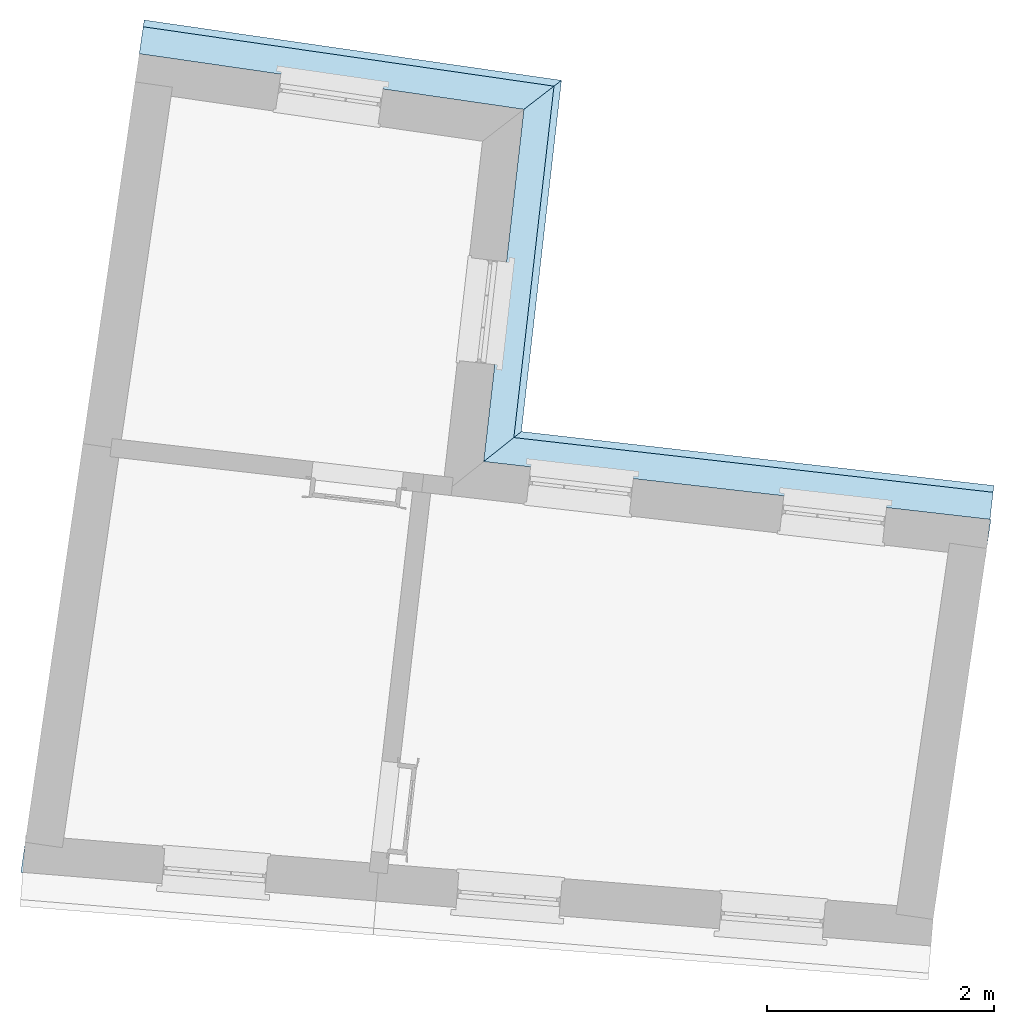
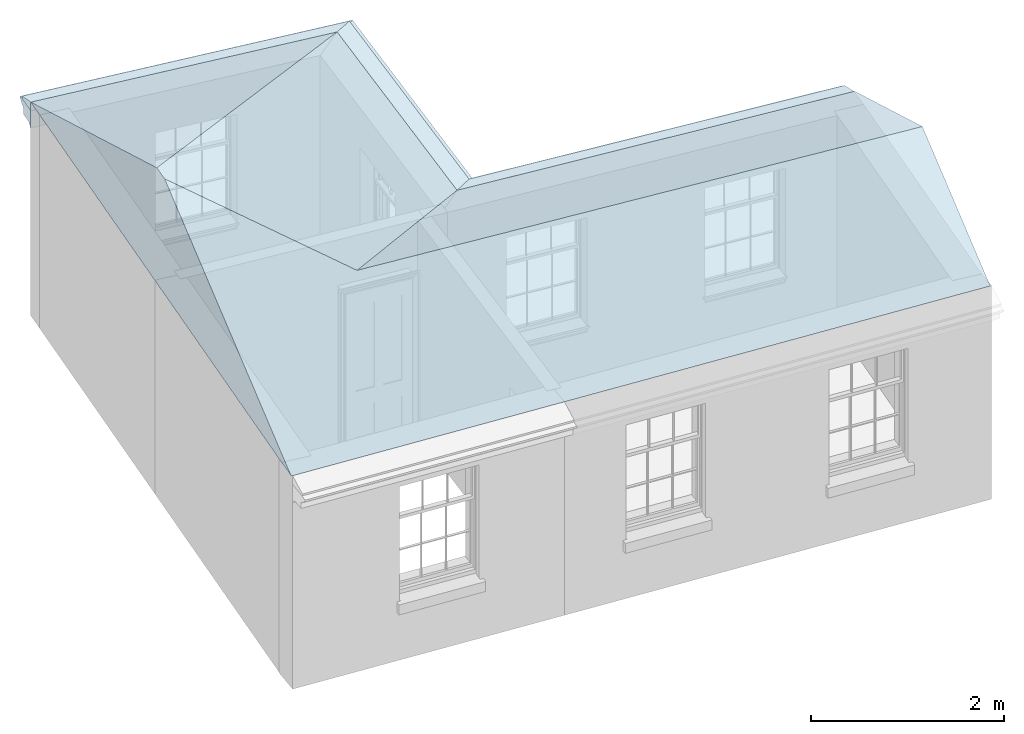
# One storey, part 3 of 3: 7 roofs.
"""IFC4 building model written with IfcOpenShell, lengths in metres."""

from ifc_helpers import new_model, si_unit, frame, origin, origin_with_axes, place, context, subcontext, project, spatial, polyline, outline, extrude, boolean, clip, halfspace, faceted_brep, material_profile, profile_set, profile_usage, type_object, element, save


model = new_model("IFC4")

# Units and contexts
model_context = context("Model", 3, world=origin_with_axes())
body_context = subcontext(model_context, "Body", "Model", "MODEL_VIEW")
ifc_project = project(units=[si_unit("PLANEANGLEUNIT", "RADIAN"), si_unit("MASSUNIT", "GRAM", prefix="KILO"), si_unit("FORCEUNIT", "NEWTON", prefix="KILO"), si_unit("LENGTHUNIT", "METRE"), si_unit("AREAUNIT", "SQUARE_METRE"), si_unit("VOLUMEUNIT", "CUBIC_METRE")], contexts=[model_context, model_context])

# Sites, building, storey
site_1_placement = place(None, origin_with_axes())
site_1 = spatial("IfcSite", under=ifc_project, at=site_1_placement, Name="Tamar")
site_2_placement = place(site_1_placement, origin_with_axes())
site_2 = spatial("IfcSite", under=site_1, at=site_2_placement, Name="Site plot-31", CompositionType="ELEMENT")
building_placement = place(None, origin_with_axes())
building = spatial("IfcBuilding", under=site_2, at=building_placement, Name="Building plot-31", CompositionType="ELEMENT")
storey_placement = place(None, frame((0.0, 0.0, 31.35), z_axis=(0.0, 0.0, 1.0), x_axis=(1.0, 0.0, 0.0)))
storey = spatial("IfcBuildingStorey", under=building, at=storey_placement, Name="plot-31 2", CompositionType="ELEMENT", Elevation=31.35)

# Roofs
ifc_material_profile_1 = material_profile(None, outline(polyline([(0.25, -0.11), (0.25, -0.33), (0.265, -0.33), (0.268, -0.318), (0.274, -0.309), (0.283, -0.303), (0.295, -0.3), (0.295, -0.285), (0.455, -0.285), (0.455, -0.205), (0.47, -0.205), (0.47, -0.19), (0.483, -0.189), (0.494, -0.186), (0.506, -0.179), (0.514, -0.17), (0.52, -0.16), (0.529, -0.149), (0.539, -0.143), (0.55, -0.14), (0.55, -0.12), (0.48, -0.11), (0.25, -0.11)])))
ifc_profile_set_1 = profile_set([ifc_material_profile_1])
ifc_profile_usage_1 = profile_usage(ifc_profile_set_1)
roof_type_1 = type_object("IfcRoofType", Name="eaves_0", PredefinedType="FREEFORM", material=ifc_profile_set_1)
roof_1_placement = place(storey_placement, frame((294.973926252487, 261.163553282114, 2.7), z_axis=(0.993538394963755, -0.113496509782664, 0.0), x_axis=(0.113496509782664, 0.993538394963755, 0.0)))
element("IfcRoof", 1, at=roof_1_placement, inside=storey, type_object=roof_type_1, material=ifc_profile_usage_1, Name="eaves_0", context=body_context, shape_type="Clipping", body=[
    clip(clip(extrude(outline(polyline([(0.25, -0.11), (0.25, -0.33), (0.265, -0.33), (0.268, -0.318), (0.274, -0.309), (0.283, -0.303), (0.295, -0.3), (0.295, -0.285), (0.455, -0.285), (0.455, -0.205), (0.47, -0.205), (0.47, -0.19), (0.483, -0.189), (0.494, -0.186), (0.506, -0.179), (0.514, -0.17), (0.52, -0.16), (0.529, -0.149), (0.539, -0.143), (0.55, -0.14), (0.55, -0.12), (0.48, -0.11), (0.25, -0.11)])), origin_with_axes(), (0.0, 0.0, 1.0), 6.73315225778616), halfspace(frame((0.0, 0.0, 5.73315225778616), z_axis=(2.70282094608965e-14, 0.0, -1.0), x_axis=(0.0, 1.0, 0.0)), True)), halfspace(frame((0.0, 0.0, 1.0), z_axis=(0.707106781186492, 0.0, -0.707106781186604), x_axis=(0.0, 1.0, 0.0)), False)),
])
ifc_profile_usage_2 = profile_usage(ifc_profile_set_1)
roof_2_placement = place(storey_placement, frame((296.43570391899, 265.14898188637, 2.7), z_axis=(-0.113496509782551, -0.993538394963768, 0.0), x_axis=(0.993538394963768, -0.113496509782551, 0.0)))
element("IfcRoof", 2, at=roof_2_placement, inside=storey, type_object=roof_type_1, material=ifc_profile_usage_2, Name="eaves_0", context=body_context, shape_type="Clipping", body=[
    clip(clip(extrude(outline(polyline([(0.25, -0.11), (0.25, -0.33), (0.265, -0.33), (0.268, -0.318), (0.274, -0.309), (0.283, -0.303), (0.295, -0.3), (0.295, -0.285), (0.455, -0.285), (0.455, -0.205), (0.47, -0.205), (0.47, -0.19), (0.483, -0.189), (0.494, -0.186), (0.506, -0.179), (0.514, -0.17), (0.52, -0.16), (0.529, -0.149), (0.539, -0.143), (0.55, -0.14), (0.55, -0.12), (0.48, -0.11), (0.25, -0.11)])), origin_with_axes(), (0.0, 0.0, 1.0), 5.12558300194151), halfspace(frame((0.0, 0.0, 4.12558300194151), z_axis=(-0.707106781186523, 0.0, -0.707106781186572), x_axis=(0.0, 1.0, 0.0)), True)), halfspace(frame((0.0, 0.0, 1.0), z_axis=(-0.696467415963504, 0.0, -0.717588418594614), x_axis=(0.0, 1.0, 0.0)), False)),
])
ifc_profile_usage_3 = profile_usage(ifc_profile_set_1)
roof_3_placement = place(storey_placement, frame((292.189694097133, 264.753037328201, 2.7), z_axis=(0.98970546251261, -0.143119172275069, 0.0), x_axis=(0.143119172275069, 0.98970546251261, 0.0)))
element("IfcRoof", 3, at=roof_3_placement, inside=storey, type_object=roof_type_1, material=ifc_profile_usage_3, Name="eaves_0", context=body_context, shape_type="Clipping", body=[
    clip(clip(extrude(outline(polyline([(0.25, -0.11), (0.25, -0.33), (0.265, -0.33), (0.268, -0.318), (0.274, -0.309), (0.283, -0.303), (0.295, -0.3), (0.295, -0.285), (0.455, -0.285), (0.455, -0.205), (0.47, -0.205), (0.47, -0.19), (0.483, -0.189), (0.494, -0.186), (0.506, -0.179), (0.514, -0.17), (0.52, -0.16), (0.529, -0.149), (0.539, -0.143), (0.55, -0.14), (0.55, -0.12), (0.48, -0.11), (0.25, -0.11)])), origin_with_axes(), (0.0, 0.0, 1.0), 5.17549813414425), halfspace(frame((0.0, 0.0, 4.17549813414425), z_axis=(0.696467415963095, 0.0, -0.717588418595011), x_axis=(0.0, 1.0, 0.0)), True)), halfspace(frame((0.0, 0.0, 1.0), z_axis=(6.60010580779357e-15, 0.0, -1.0), x_axis=(0.0, 1.0, 0.0)), False)),
])
ifc_material_profile_2 = material_profile(None, outline(polyline([(0.25, -0.11), (0.48, -0.11), (0.49, -0.08), (0.25, 0.0), (0.25, -0.11)])))
ifc_profile_set_2 = profile_set([ifc_material_profile_2])
ifc_profile_usage_4 = profile_usage(ifc_profile_set_2)
roof_type_2 = type_object("IfcRoofType", Name="eaves_1", PredefinedType="FREEFORM", material=ifc_profile_set_2)
roof_4_placement = place(storey_placement, frame((294.973926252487, 261.163553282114, 2.7), z_axis=(0.993538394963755, -0.113496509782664, 0.0), x_axis=(0.113496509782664, 0.993538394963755, 0.0)))
element("IfcRoof", 4, at=roof_4_placement, inside=storey, type_object=roof_type_2, material=ifc_profile_usage_4, Name="eaves_1", context=body_context, shape_type="Clipping", body=[
    clip(clip(extrude(outline(polyline([(0.25, -0.11), (0.48, -0.11), (0.49, -0.08), (0.25, 0.0), (0.25, -0.11)])), origin_with_axes(), (0.0, 0.0, 1.0), 6.73315225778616), halfspace(frame((0.0, 0.0, 5.73315225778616), z_axis=(2.70282094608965e-14, 0.0, -1.0), x_axis=(0.0, 1.0, 0.0)), True)), halfspace(frame((0.0, 0.0, 1.0), z_axis=(0.707106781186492, 0.0, -0.707106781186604), x_axis=(0.0, 1.0, 0.0)), False)),
])
ifc_profile_usage_5 = profile_usage(ifc_profile_set_2)
roof_5_placement = place(storey_placement, frame((296.43570391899, 265.14898188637, 2.7), z_axis=(-0.113496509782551, -0.993538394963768, 0.0), x_axis=(0.993538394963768, -0.113496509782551, 0.0)))
element("IfcRoof", 5, at=roof_5_placement, inside=storey, type_object=roof_type_2, material=ifc_profile_usage_5, Name="eaves_1", context=body_context, shape_type="Clipping", body=[
    clip(clip(extrude(outline(polyline([(0.25, -0.11), (0.48, -0.11), (0.49, -0.08), (0.25, 0.0), (0.25, -0.11)])), origin_with_axes(), (0.0, 0.0, 1.0), 5.12558300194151), halfspace(frame((0.0, 0.0, 4.12558300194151), z_axis=(-0.707106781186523, 0.0, -0.707106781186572), x_axis=(0.0, 1.0, 0.0)), True)), halfspace(frame((0.0, 0.0, 1.0), z_axis=(-0.696467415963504, 0.0, -0.717588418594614), x_axis=(0.0, 1.0, 0.0)), False)),
])
ifc_profile_usage_6 = profile_usage(ifc_profile_set_2)
roof_6_placement = place(storey_placement, frame((292.189694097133, 264.753037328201, 2.7), z_axis=(0.98970546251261, -0.143119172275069, 0.0), x_axis=(0.143119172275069, 0.98970546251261, 0.0)))
element("IfcRoof", 6, at=roof_6_placement, inside=storey, type_object=roof_type_2, material=ifc_profile_usage_6, Name="eaves_1", context=body_context, shape_type="Clipping", body=[
    clip(clip(extrude(outline(polyline([(0.25, -0.11), (0.48, -0.11), (0.49, -0.08), (0.25, 0.0), (0.25, -0.11)])), origin_with_axes(), (0.0, 0.0, 1.0), 5.17549813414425), halfspace(frame((0.0, 0.0, 4.17549813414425), z_axis=(0.696467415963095, 0.0, -0.717588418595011), x_axis=(0.0, 1.0, 0.0)), True)), halfspace(frame((0.0, 0.0, 1.0), z_axis=(6.60010580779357e-15, 0.0, -1.0), x_axis=(0.0, 1.0, 0.0)), False)),
])
roof_7_placement = place(building_placement, origin())
element("IfcRoof", 7, at=roof_7_placement, inside=storey, Name="Roof", PredefinedType="FREEFORM", context=body_context, shape_type="CSG", body=[
    boolean("UNION", faceted_brep([(292.174074, 257.657836, 34.05), (300.163645, 257.01028, 34.05), (300.434999, 258.88676, 34.833803), (292.464301, 259.664826, 34.888317), (300.70594, 260.760385, 34.05), (292.754085, 261.668762, 34.05)], [[[0, 1, 2, 3]], [[4, 5, 3, 2]], [[5, 4, 1, 0]], [[5, 0, 3]], [[1, 4, 2]]]), faceted_brep([(295.798028, 257.364114, 34.05), (296.598131, 264.368143, 34.05), (292.711143, 261.371802, 35.508776), (292.680035, 261.156687, 35.511465), (292.174074, 257.657836, 34.05), (293.215179, 264.857345, 34.05)], [[[0, 1, 2, 3]], [[4, 5, 1, 0]], [[3, 4, 0]], [[2, 1, 5]], [[2, 5, 4, 3]]])),
])

save(model, "model.ifc")
